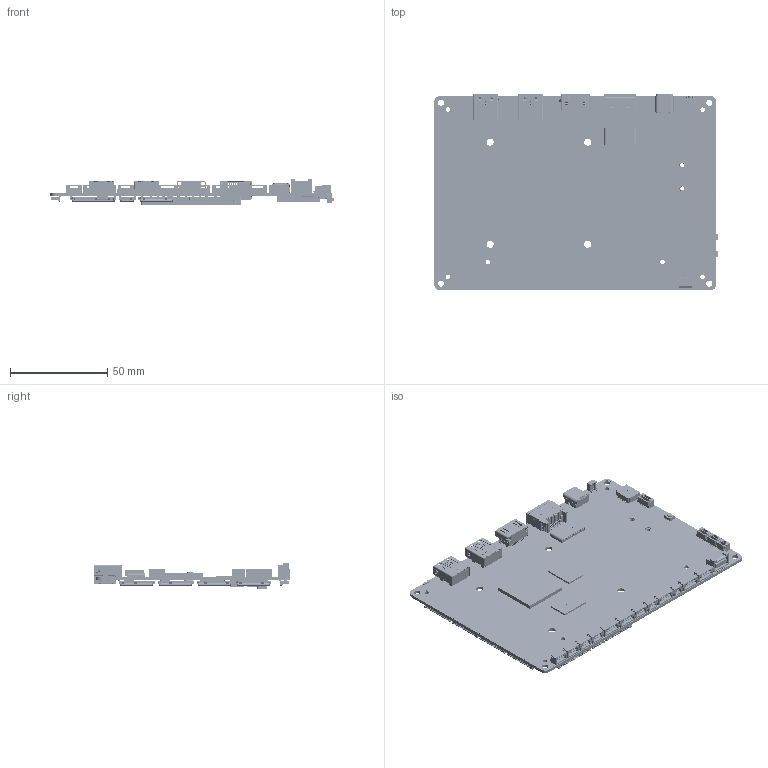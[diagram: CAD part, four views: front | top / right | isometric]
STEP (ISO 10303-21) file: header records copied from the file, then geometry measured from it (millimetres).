
FILE_DESCRIPTION((''),'2;1');
FILE_NAME('A10-STACK-3D_ASM','2024-10-29T11:38:25',('Noah'),(''),'CREO PARAMETRIC BY PTC INC, 2019010','CREO PARAMETRIC BY PTC INC, 2019010','');
FILE_SCHEMA(('AUTOMOTIVE_DESIGN { 1 0 10303 214 1 1 1 1 }'));
Products named in the file (110): A10-PCB; RK3588-23X23X065; LPDDR4-15X10X090-022; RK-IC_A_ASM; USB-A_8_1_2; 40-42583-A3104RHF_230111_01; BTB-REC-122P-VT-HS0331_; BTB-REC-122P-VT-SMT_CONN_ASM; BTB-122P-LINK-A_ASM; APCI0085_19071223_0001; H5120NL_A_4_1_1_1_1_1_1_1; H5120NL_A_4_2_1_1_1_1_1_1; H5120NL_A_4_3_1_1_1_1_1_1; H5120NL_A_4_4_1_1_1_1_1_1; H5120NL_A_4_5_1_1_1_1_1_1; H5120NL_A_4_6_1_1_1_1_1_1; H5120NL_A_4_7_1_1_1_1_1_1; H5120NL_A_4_8_1_1_1_1_1_1; H5120NL_A_4_9_1_1_1_1_1_1; H5120NL_A_4_10_1_1_1_1_1_1; H5120NL_A_4_11_1_1_1_1_1_1; H5120NL_A_4_12_1_1_1_1_1_1; H5120NL_A_4_13_1_1_1_1_1_1; H5120NL_A_4_ASM_1_ASM_1_ASM_1_2_ASM; H5120NL_A_4_ASM_1_ASM_1_ASM_ASM; A10_FAN_NUT_ASSY_ASM; STANDOFF_M2XL22_D55; 5033981892; BM02B-GHS-TBT_2PIN; BM03B-GHS-TBT-3PIN; BM04B-GHS-TBT-4PIN; SM12B-GHDS-A-TF; SM02B-GHS-TB; SM04B-GHS-TB; SM06B-GHS-TB; SM03B-GHS-TB; A10_CONN_JST_3588_ASM; A10_CONN_JST_ASM; MSBR-8; MSBR-7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
Assembly tree (131 placements, depth 7):
  A10-STACK-3D_ASM
    A10-PCBA_ASM
      A10-PCB
      RK-IC_A_ASM
        RK3588-23X23X065
        LPDDR4-15X10X090-022  x2
      USB-A_8_1_2  x2
      40-42583-A3104RHF_230111_01
      BTB-122P-LINK-A_ASM
        BTB-REC-122P-VT-SMT_CONN_ASM
          BTB-REC-122P-VT-HS0331_
      APCI0085_19071223_0001
      H5120NL_A_4_ASM_1_ASM_1_ASM_ASM
        H5120NL_A_4_ASM_1_ASM_1_ASM_1_2_ASM
          H5120NL_A_4_1_1_1_1_1_1_1
          H5120NL_A_4_2_1_1_1_1_1_1
          H5120NL_A_4_3_1_1_1_1_1_1
          H5120NL_A_4_4_1_1_1_1_1_1
          H5120NL_A_4_5_1_1_1_1_1_1
          H5120NL_A_4_6_1_1_1_1_1_1
          H5120NL_A_4_7_1_1_1_1_1_1
          H5120NL_A_4_8_1_1_1_1_1_1
          H5120NL_A_4_9_1_1_1_1_1_1
          H5120NL_A_4_10_1_1_1_1_1_1
          H5120NL_A_4_11_1_1_1_1_1_1
          H5120NL_A_4_12_1_1_1_1_1_1
          H5120NL_A_4_13_1_1_1_1_1_1
      A10_FAN_NUT_ASSY_ASM
      STANDOFF_M2XL22_D55  x2
      5033981892
      A10_CONN_JST_ASM
        BM02B-GHS-TBT_2PIN
        BM03B-GHS-TBT-3PIN  x2
        BM04B-GHS-TBT-4PIN
        A10_CONN_JST_3588_ASM
          SM12B-GHDS-A-TF
          SM02B-GHS-TB
          SM04B-GHS-TB  x5
          SM06B-GHS-TB  x5
          SM03B-GHS-TB
      A10_CONN_FPC_HB_ASM
        HB-FPC05-GXG-H2030P_ASM  x5
          MSBR-8
          MSBR-7
          MSBR-6
          MSBR-5
          MSBR-4
          MSBR-3
          MSBR-2
          MSBR-1
        HB-FPC05-GXG-H2010P_ASM_ASM
          HB-FPC05-GXG-H2030P_ASM_1_ASM
            MSBR-8_1
            MSBR-7_1
            MSBR-6_1
            MSBR-5_1
            MSBR-2_1
            MSBR-1_1
        HB-FPC05-GXG-H2040P_ASM_ASM
          HB-FPC05-GXG-H2030P_ASM_2_ASM
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Bounding box: 145.85 x 101.2 x 13.3 mm (x, y, z)
Volume: 30721 mm3; surface area: 58862.2 mm2
Topology: 139 solids, 145 shells, 52239 faces, 170196 edges, 130119 vertices
Faces by surface type: plane 35651, cylinder 16027, bspline 328, cone 121, extrusion 63, torus 33, sphere 16
Entity records: 1597792 total; most frequent: CARTESIAN_POINT 233401, ORIENTED_EDGE 192716, DIRECTION 192030, PRESENTATION_STYLE_ASSIGNMENT 119199, STYLED_ITEM 117476, CURVE_STYLE 108501, EDGE_CURVE 96358, VECTOR 89594
